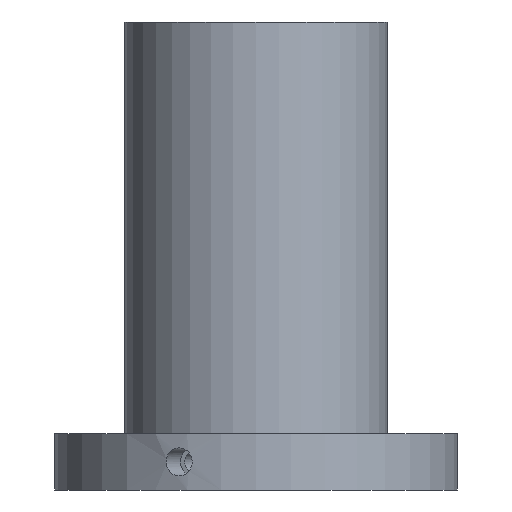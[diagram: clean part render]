
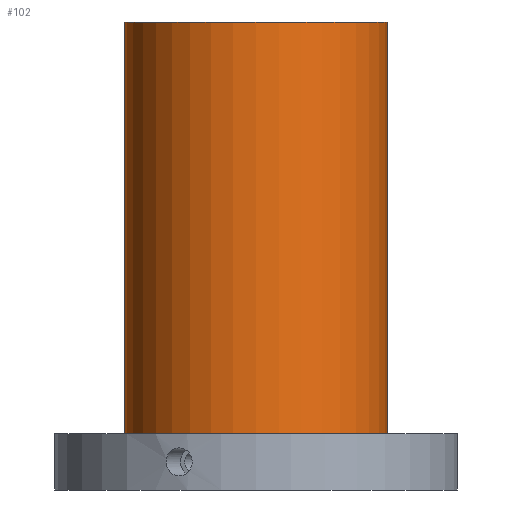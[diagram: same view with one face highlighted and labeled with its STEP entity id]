
A CAD part, front view. The second image highlights one B-rep face of the part: STEP entity #102.
In plain terms, the highlighted cylindrical face has radius 28 mm (diameter 56 mm), a full revolution.
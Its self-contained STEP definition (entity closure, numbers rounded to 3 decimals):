
#102=ADVANCED_FACE('',(#132,#133),#117,.T.);
#117=CYLINDRICAL_SURFACE('',#331,28.);
#132=FACE_BOUND('',#176,.T.);
#133=FACE_BOUND('',#177,.T.);
#176=EDGE_LOOP('',(#220));
#177=EDGE_LOOP('',(#221));
#220=ORIENTED_EDGE('',*,*,#286,.F.);
#221=ORIENTED_EDGE('',*,*,#287,.T.);
#264=VERTEX_POINT('',#499);
#265=VERTEX_POINT('',#501);
#286=EDGE_CURVE('',#264,#264,#307,.T.);
#287=EDGE_CURVE('',#265,#265,#308,.T.);
#307=CIRCLE('',#329,28.);
#308=CIRCLE('',#330,28.);
#329=AXIS2_PLACEMENT_3D('',#498,#369,#370);
#330=AXIS2_PLACEMENT_3D('',#500,#371,#372);
#331=AXIS2_PLACEMENT_3D('',#502,#373,#374);
#369=DIRECTION('',(0.,0.,-1.));
#370=DIRECTION('',(1.,0.,0.));
#371=DIRECTION('',(0.,0.,-1.));
#372=DIRECTION('',(1.,0.,0.));
#373=DIRECTION('',(0.,0.,-1.));
#374=DIRECTION('',(-1.,0.,0.));
#498=CARTESIAN_POINT('',(0.,0.,12.));
#499=CARTESIAN_POINT('',(28.,0.,12.));
#500=CARTESIAN_POINT('',(0.,0.,100.));
#501=CARTESIAN_POINT('',(28.,0.,100.));
#502=CARTESIAN_POINT('',(0.,0.,100.));
